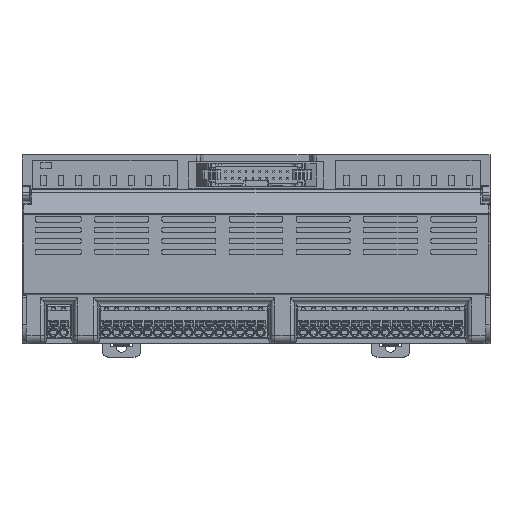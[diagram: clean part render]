
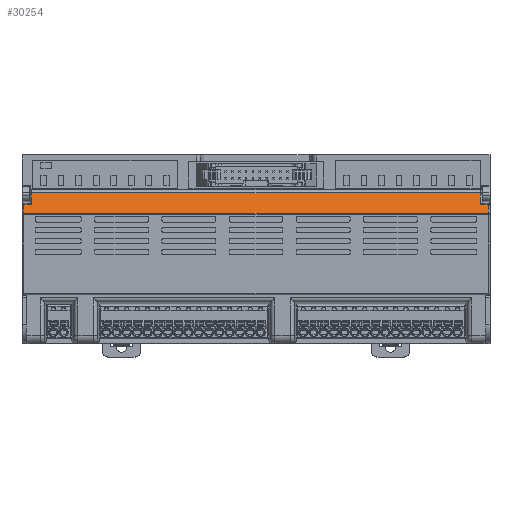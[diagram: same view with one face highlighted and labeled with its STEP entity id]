
A CAD part, top view. The second image highlights one B-rep face of the part: STEP entity #30254.
In plain terms, the highlighted planar face has unit normal (0, 0.316, 0.949).
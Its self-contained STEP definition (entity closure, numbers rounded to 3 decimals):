
#30254=ADVANCED_FACE('',(#36804),#34083,.F.);
#34083=PLANE('',#100384);
#36804=FACE_OUTER_BOUND('',#40867,.T.);
#40867=EDGE_LOOP('',(#49222,#49223,#49224,#49225,#49226,#49227,#49228,#49229));
#49222=ORIENTED_EDGE('',*,*,#75183,.T.);
#49223=ORIENTED_EDGE('',*,*,#75184,.T.);
#49224=ORIENTED_EDGE('',*,*,#75185,.T.);
#49225=ORIENTED_EDGE('',*,*,#75186,.T.);
#49226=ORIENTED_EDGE('',*,*,#75187,.T.);
#49227=ORIENTED_EDGE('',*,*,#75188,.F.);
#49228=ORIENTED_EDGE('',*,*,#75189,.F.);
#49229=ORIENTED_EDGE('',*,*,#75190,.F.);
#67556=VERTEX_POINT('',#132614);
#67557=VERTEX_POINT('',#132615);
#67558=VERTEX_POINT('',#132617);
#67559=VERTEX_POINT('',#132619);
#67560=VERTEX_POINT('',#132621);
#67561=VERTEX_POINT('',#132623);
#67562=VERTEX_POINT('',#132625);
#67563=VERTEX_POINT('',#132627);
#75183=EDGE_CURVE('',#67556,#67557,#85476,.T.);
#75184=EDGE_CURVE('',#67557,#67558,#85477,.T.);
#75185=EDGE_CURVE('',#67558,#67559,#85478,.T.);
#75186=EDGE_CURVE('',#67559,#67560,#85479,.T.);
#75187=EDGE_CURVE('',#67560,#67561,#85480,.T.);
#75188=EDGE_CURVE('',#67562,#67561,#85481,.T.);
#75189=EDGE_CURVE('',#67563,#67562,#85482,.T.);
#75190=EDGE_CURVE('',#67556,#67563,#85483,.T.);
#85476=LINE('',#132613,#93523);
#85477=LINE('',#132616,#93524);
#85478=LINE('',#132618,#93525);
#85479=LINE('',#132620,#93526);
#85480=LINE('',#132622,#93527);
#85481=LINE('',#132624,#93528);
#85482=LINE('',#132626,#93529);
#85483=LINE('',#132628,#93530);
#93523=VECTOR('',#110470,1.);
#93524=VECTOR('',#110471,1.);
#93525=VECTOR('',#110472,1.);
#93526=VECTOR('',#110473,1.);
#93527=VECTOR('',#110474,1.);
#93528=VECTOR('',#110475,1.);
#93529=VECTOR('',#110476,1.);
#93530=VECTOR('',#110477,1.);
#100384=AXIS2_PLACEMENT_3D('',#132629,#110478,#110479);
#110470=DIRECTION('',(-1.,0.,0.));
#110471=DIRECTION('',(0.,-0.949,0.316));
#110472=DIRECTION('',(-1.,0.,0.));
#110473=DIRECTION('',(0.,-0.949,0.316));
#110474=DIRECTION('',(1.,0.,0.));
#110475=DIRECTION('',(0.,-0.949,0.316));
#110476=DIRECTION('',(1.,0.,0.));
#110477=DIRECTION('',(0.,-0.949,0.316));
#110478=DIRECTION('',(0.,-0.316,-0.949));
#110479=DIRECTION('',(0.,0.949,-0.316));
#132613=CARTESIAN_POINT('',(-101.083,-247.437,-0.713));
#132614=CARTESIAN_POINT('',(65.817,-247.437,-0.713));
#132615=CARTESIAN_POINT('',(-100.583,-247.437,-0.713));
#132616=CARTESIAN_POINT('',(-100.583,-246.275,-1.1));
#132617=CARTESIAN_POINT('',(-100.583,-251.756,0.727));
#132618=CARTESIAN_POINT('',(-98.733,-251.756,0.727));
#132619=CARTESIAN_POINT('',(-103.483,-251.756,0.727));
#132620=CARTESIAN_POINT('',(-103.483,-255.013,1.813));
#132621=CARTESIAN_POINT('',(-103.483,-255.013,1.813));
#132622=CARTESIAN_POINT('',(-98.733,-255.013,1.813));
#132623=CARTESIAN_POINT('',(68.717,-255.013,1.813));
#132624=CARTESIAN_POINT('',(68.717,-255.013,1.813));
#132625=CARTESIAN_POINT('',(68.717,-251.756,0.727));
#132626=CARTESIAN_POINT('',(63.967,-251.756,0.727));
#132627=CARTESIAN_POINT('',(65.817,-251.756,0.727));
#132628=CARTESIAN_POINT('',(65.817,-246.275,-1.1));
#132629=CARTESIAN_POINT('',(-98.733,-246.275,-1.1));
